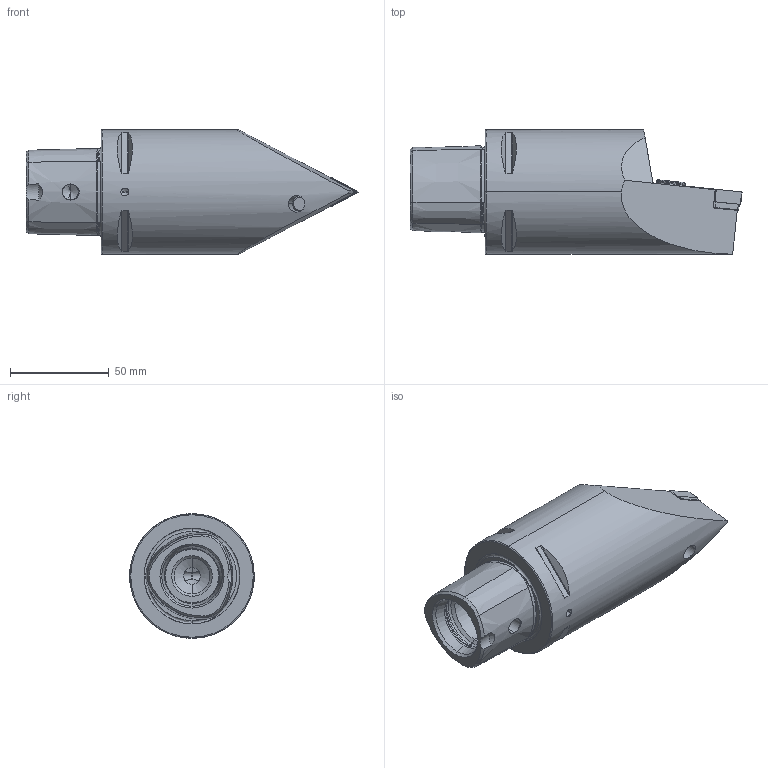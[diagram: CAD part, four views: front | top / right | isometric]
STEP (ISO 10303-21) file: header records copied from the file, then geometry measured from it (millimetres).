
FILE_DESCRIPTION (( 'STEP AP214' ), '1' );
FILE_NAME ('PS6.PDF.NNA.130-HP.STEP', '2020-09-16T07:53:22', ( '' ), ( '' ), 'SwSTEP 2.0', 'SolidWorks 2017', '' );
FILE_SCHEMA (( 'AUTOMOTIVE_DESIGN' ));
Length unit declared in the file: millimetre
Products named in the file (13): DNMG150604; WCD-ER1.101.000; WDF-ER2.101.003_A; WDF-ER3.101.000_A; ISO 8752 2x8; CHP-ER1.015.006; PS6.PDF.NNA.130-HP; PS6-PDF.NNA.130-HP_B; DIN 3771 - 13x1; CHP-ER1.015.006_A; CHP-ER1.008.014_A; DIN 7991 - M5x15; WCD-ER4.101.017_A
Assembly tree (12 placements, depth 3):
  PS6.PDF.NNA.130-HP
    PS6-PDF.NNA.130-HP_B
    DNMG150604
    WDF-ER3.101.000_A
    WCD-ER1.101.000
    WCD-ER4.101.017_A
    WDF-ER2.101.003_A
    ISO 8752 2x8
    CHP-ER1.015.006
      CHP-ER1.015.006_A
      DIN 3771 - 13x1
      DIN 7991 - M5x15
    CHP-ER1.008.014_A
Bounding box: 168 x 63 x 63 mm (x, y, z)
Volume: 309397.1 mm3; surface area: 43985.8 mm2
Topology: 11 solids, 11 shells, 437 faces, 1037 edges, 612 vertices
Faces by surface type: cone 137, plane 128, cylinder 109, torus 51, bspline 12
Entity records: 14324 total; most frequent: CARTESIAN_POINT 3853, DIRECTION 2101, ORIENTED_EDGE 2026, EDGE_CURVE 1013, AXIS2_PLACEMENT_3D 833, VERTEX_POINT 612, EDGE_LOOP 471, ADVANCED_FACE 437
